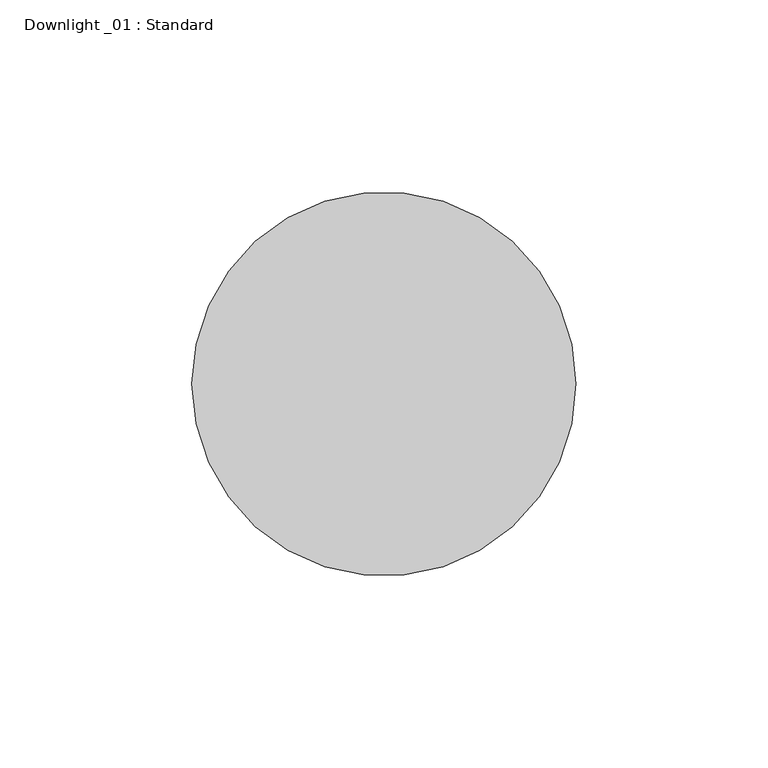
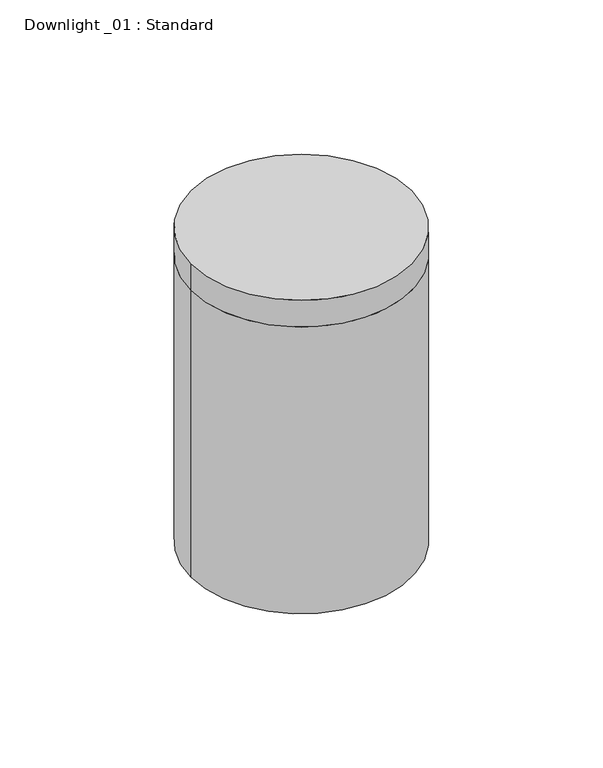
"""IFC4 building model written with IfcOpenShell, lengths in millimetres: light fixture geometry, Downlight _01 : Standard."""

import ifcopenshell
import ifcopenshell.guid

model = None  # the IFC model being written
_history = None  # IfcOwnerHistory: only IFC2X3 demands one
_inside = {}  # id of a spatial element -> (the spatial element, [elements in it])
_under = {}  # id of a project, library or spatial element -> (it, [spatial elements below it])
_declared = {}  # id of a project -> (the project, [libraries it declares])
_typed = {}  # id of a type object -> (the type object, [elements of that type])
_made_of = {}  # id of a material, layer set ... -> (it, [elements and type objects made of it])


def new_model(schema):
    """Start an empty IFC model of exactly this schema.

    Asked for "IFC4X3", IfcOpenShell would pick the latest addendum, in which some entities
    have other attributes; the version numbers below select the first issue.
    IFC2X3 requires an IfcOwnerHistory on every rooted entity: one is made here for all.
    """
    global model, _history
    if schema == "IFC4X3":
        model = ifcopenshell.file(schema_version=(4, 3, 0, 0))
    else:
        model = ifcopenshell.file(schema=schema)
    _inside.clear()
    _under.clear()
    _declared.clear()
    _typed.clear()
    _made_of.clear()
    _history = None
    if model.schema == "IFC2X3":
        org = make("IfcOrganization", Name="unknown")
        user = make(
            "IfcPersonAndOrganization",
            ThePerson=make("IfcPerson", FamilyName="unknown"),
            TheOrganization=org,
        )
        app = make(
            "IfcApplication",
            ApplicationDeveloper=org,
            Version="unknown",
            ApplicationFullName="unknown",
            ApplicationIdentifier="unknown",
        )
        _history = make(
            "IfcOwnerHistory",
            OwningUser=user,
            OwningApplication=app,
            ChangeAction="ADDED",
            CreationDate=0,
        )
    return model


def make(cls, **values):
    """One entity of the class cls with the attributes given. An attribute that is None is left unset."""
    return model.create_entity(
        cls, **{name: value for name, value in values.items() if value is not None}
    )


def rooted(cls, **values):
    """An entity with a GlobalId (a new one), such as an element, a storey or a relation."""
    return make(cls, GlobalId=ifcopenshell.guid.new(), OwnerHistory=_history, **values)


def si_unit(unit_type, name, prefix=None):
    """IfcSIUnit, for example si_unit("LENGTHUNIT", "METRE", prefix="MILLI")."""
    return make("IfcSIUnit", UnitType=unit_type, Prefix=prefix, Name=name)


def assignment(units):
    """IfcUnitAssignment: the units of a project."""
    return None if units is None else make("IfcUnitAssignment", Units=units)


def point(xyz):
    """IfcCartesianPoint."""
    return None if xyz is None else make("IfcCartesianPoint", Coordinates=xyz)


def direction(xyz):
    """IfcDirection."""
    return None if xyz is None else make("IfcDirection", DirectionRatios=xyz)


def frame(location, z_axis=None, x_axis=None):
    """IfcAxis2Placement3D, a coordinate frame: its origin and axes. An axis left out is left unset."""
    return make(
        "IfcAxis2Placement3D",
        Location=point(location),
        Axis=direction(z_axis),
        RefDirection=direction(x_axis),
    )


def frame_2d(location, x_axis=None):
    """IfcAxis2Placement2D, a coordinate frame in the plane: its origin and x axis."""
    return make(
        "IfcAxis2Placement2D", Location=point(location), RefDirection=direction(x_axis)
    )


def origin():
    """The frame at (0, 0, 0) with its axes left unset."""
    return frame((0.0, 0.0, 0.0))


def origin_2d():
    """The frame at (0, 0) in the plane with its x axis left unset."""
    return frame_2d((0.0, 0.0))


def place(relative_to, where):
    """IfcLocalPlacement: puts the frame where relative to a parent placement (None: the world)."""
    return make(
        "IfcLocalPlacement", PlacementRelTo=relative_to, RelativePlacement=where
    )


def context(
    kind, dimensions, precision=None, world=None, true_north=None, identifier=None
):
    """IfcGeometricRepresentationContext, for example the 3D "Model" context."""
    return make(
        "IfcGeometricRepresentationContext",
        ContextIdentifier=identifier,
        ContextType=kind,
        CoordinateSpaceDimension=dimensions,
        Precision=precision,
        WorldCoordinateSystem=world,
        TrueNorth=true_north,
    )


def project(units=None, contexts=None):
    """IfcProject with its units and contexts."""
    return rooted(
        "IfcProject",
        Name="project",
        RepresentationContexts=contexts,
        UnitsInContext=assignment(units),
    )


def spatial(cls, under=None, at=None, **own):
    """A site, building, storey or space (cls), placed at a placement, below another one or the project."""
    s = rooted(cls, ObjectPlacement=at, **own)
    if under is not None:
        _under.setdefault(under.id(), (under, []))[1].append(s)
    return s


def circle_curve(where, radius):
    """IfcCircle in the frame where."""
    return make("IfcCircle", Position=where, Radius=radius)


def trimmed(basis, trim1, trim2, sense, master):
    """IfcTrimmedCurve: the piece of a basis curve between two trims."""
    return make(
        "IfcTrimmedCurve",
        BasisCurve=basis,
        Trim1=trim1,
        Trim2=trim2,
        SenseAgreement=sense,
        MasterRepresentation=master,
    )


def segment(curve, same_sense, transition):
    """IfcCompositeCurveSegment."""
    return make(
        "IfcCompositeCurveSegment",
        Transition=transition,
        SameSense=same_sense,
        ParentCurve=curve,
    )


def composite_curve(segments, self_intersect=None):
    """IfcCompositeCurve: segments joined end to end."""
    return make("IfcCompositeCurve", Segments=segments, SelfIntersect=self_intersect)


def outline(outer, holes=None, kind="AREA"):
    """IfcArbitraryClosedProfileDef: a profile drawn as a closed curve; with holes, ...WithVoids."""
    if holes is None:
        return make("IfcArbitraryClosedProfileDef", ProfileType=kind, OuterCurve=outer)
    return make(
        "IfcArbitraryProfileDefWithVoids",
        ProfileType=kind,
        OuterCurve=outer,
        InnerCurves=holes,
    )


def extrude(swept, where, along, depth):
    """IfcExtrudedAreaSolid: the profile swept, set in the frame where, extruded along a direction by depth."""
    return make(
        "IfcExtrudedAreaSolid",
        SweptArea=swept,
        Position=where,
        ExtrudedDirection=direction(along),
        Depth=depth,
    )


def shape(context_of_items, identifier, shape_type, items):
    """IfcShapeRepresentation: the items that make up one representation, for example the "Body"."""
    return make(
        "IfcShapeRepresentation",
        ContextOfItems=context_of_items,
        RepresentationIdentifier=identifier,
        RepresentationType=shape_type,
        Items=items,
    )


def source(mapping_origin, context_of_items, identifier, shape_type, items):
    """IfcRepresentationMap: a shape defined once, which mapped items show again and again."""
    return make(
        "IfcRepresentationMap",
        MappingOrigin=mapping_origin,
        MappedRepresentation=shape(context_of_items, identifier, shape_type, items),
    )


def transform(
    local_origin,
    x_axis=None,
    y_axis=None,
    z_axis=None,
    scale=None,
    scale2=None,
    scale3=None,
    uniform=True,
):
    """IfcCartesianTransformationOperator3D, or its non-uniform kind. x_axis, y_axis, z_axis: its Axis1, 2, 3."""
    if uniform:
        return make(
            "IfcCartesianTransformationOperator3D",
            Axis1=direction(x_axis),
            Axis2=direction(y_axis),
            LocalOrigin=point(local_origin),
            Scale=scale,
            Axis3=direction(z_axis),
        )
    return make(
        "IfcCartesianTransformationOperator3DnonUniform",
        Axis1=direction(x_axis),
        Axis2=direction(y_axis),
        LocalOrigin=point(local_origin),
        Scale=scale,
        Axis3=direction(z_axis),
        Scale2=scale2,
        Scale3=scale3,
    )


def mapped(mapping_source, mapping_target):
    """IfcMappedItem: shows the shape of a source again, moved by a transform."""
    return make(
        "IfcMappedItem", MappingSource=mapping_source, MappingTarget=mapping_target
    )


def made_of(thing, what):
    """Note that an element or type object is made of a material, layer set ...; save() writes the relation."""
    if what is not None:
        _made_of.setdefault(what.id(), (what, []))[1].append(thing)
    return thing


def element(
    cls,
    number,
    at=None,
    inside=None,
    cuts=None,
    type_object=None,
    material=None,
    context=None,
    identifier="Body",
    shape_type=None,
    held_by="IfcProductDefinitionShape",
    body=None,
    shapes=None,
    **own,
):
    """One element of the class cls, such as IfcWall. Its Tag is "e" and its number.

    at: its placement. inside: the storey or other place that contains it. cuts: it is an
    opening in that element (IfcRelVoidsElement). A single representation is given by context,
    identifier, shape_type and body (its items); several are given by shapes. held_by: the class
    of the entity that holds the representations. save() writes the other relations.
    """
    e = rooted(cls, Tag="e%d" % number, ObjectPlacement=at, **own)
    if body is not None:
        shapes = [shape(context, identifier, shape_type, body)]
    if shapes is not None:
        e.Representation = make(held_by, Representations=shapes)
    if inside is not None:
        _inside.setdefault(inside.id(), (inside, []))[1].append(e)
    if cuts is not None:
        rooted(
            "IfcRelVoidsElement", RelatingBuildingElement=cuts, RelatedOpeningElement=e
        )
    if type_object is not None:
        _typed.setdefault(type_object.id(), (type_object, []))[1].append(e)
    return made_of(e, material)


def aggregate(whole, parts):
    """IfcRelAggregates: a whole, such as a stair, and the parts it consists of."""
    return rooted("IfcRelAggregates", RelatingObject=whole, RelatedObjects=parts)


def save(model, path):
    """Write the relations noted so far, then the file.

    IfcRelAggregates (storeys below a building ...), IfcRelContainedInSpatialStructure (elements
    in a storey), IfcRelDefinesByType, IfcRelAssociatesMaterial and IfcRelDeclares: one each for
    every whole, place, type object, material and project.
    """
    for whole, parts in _under.values():
        aggregate(whole, parts)
    for where, things in _inside.values():
        rooted(
            "IfcRelContainedInSpatialStructure",
            RelatedElements=things,
            RelatingStructure=where,
        )
    for kind, things in _typed.values():
        rooted("IfcRelDefinesByType", RelatedObjects=things, RelatingType=kind)
    for what, things in _made_of.values():
        rooted("IfcRelAssociatesMaterial", RelatedObjects=things, RelatingMaterial=what)
    for by, libraries in _declared.values():
        rooted("IfcRelDeclares", RelatingContext=by, RelatedDefinitions=libraries)
    model.write(path)


def downlight_01_standard_4b9499b6(model_context):
    return source(origin(), model_context, "Body", "SweptSolid", [
        extrude(outline(composite_curve([segment(trimmed(circle_curve(origin_2d(), 50.0), [point((-50.0, 0.0))], [point((50.0, 0.0))], False, "CARTESIAN"), True, "CONTINUOUS"), segment(trimmed(circle_curve(origin_2d(), 50.0), [point((50.0, 0.0))], [point((-50.0, 0.0))], False, "CARTESIAN"), True, "CONTINUOUS")], self_intersect=False)), frame((0.0, 0.0, 2575.7), z_axis=(0.0, 0.0, 1.0), x_axis=(1.0, 0.0, 0.0)), (0.0, 0.0, 1.0), 12.7),
        extrude(outline(composite_curve([segment(trimmed(circle_curve(origin_2d(), 50.0), [point((-50.0, 0.0))], [point((50.0, 0.0))], False, "CARTESIAN"), True, "CONTINUOUS"), segment(trimmed(circle_curve(origin_2d(), 50.0), [point((50.0, 0.0))], [point((-50.0, 0.0))], False, "CARTESIAN"), True, "CONTINUOUS")], self_intersect=False), holes=[composite_curve([segment(trimmed(circle_curve(origin_2d(), 37.3), [point((-37.3, 0.0))], [point((37.3, 0.0))], True, "CARTESIAN"), True, "CONTINUOUS"), segment(trimmed(circle_curve(origin_2d(), 37.3), [point((37.3, 0.0))], [point((-37.3, 0.0))], True, "CARTESIAN"), True, "CONTINUOUS")], self_intersect=False)]), frame((0.0, 0.0, 2438.4), z_axis=(0.0, 0.0, 1.0), x_axis=(1.0, 0.0, 0.0)), (0.0, 0.0, 1.0), 137.3),
    ])


if __name__ == "__main__":
    model = new_model("IFC4")
    model_context = context("Model", 3, world=origin())
    ifc_project = project(units=[si_unit("LENGTHUNIT", "METRE", prefix="MILLI")], contexts=[model_context])
    site = spatial("IfcSite", under=ifc_project)
    building = spatial("IfcBuilding", under=site)
    placement = place(None, origin())
    downlight_01_standard_shape = downlight_01_standard_4b9499b6(model_context)
    element("IfcLightFixture", 1, ObjectType="Downlight _01 : Standard", at=placement, inside=building, context=model_context, shape_type="MappedRepresentation", body=[
        mapped(downlight_01_standard_shape, transform((0.0, 0.0, 0.0), x_axis=(1.0, 0.0, 0.0), y_axis=(0.0, 1.0, 0.0), z_axis=(0.0, 0.0, 1.0))),
    ])
    save(model, "model.ifc")
